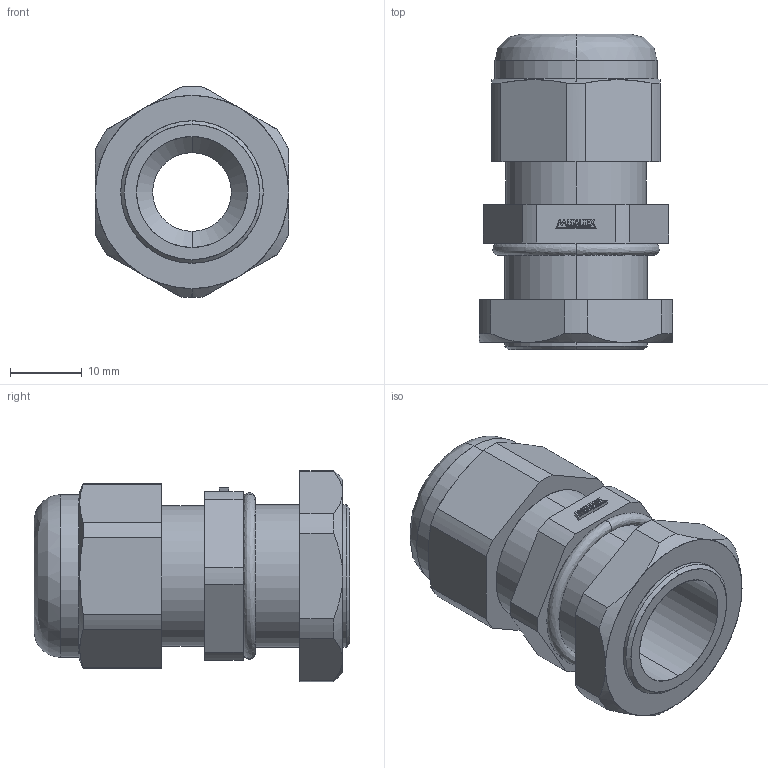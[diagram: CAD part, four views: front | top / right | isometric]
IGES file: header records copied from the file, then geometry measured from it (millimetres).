
Start section: SolidWorks IGES file using analytic representation for surfaces
Global section: file name: D:\X - Arquivos\PROEX\Empresas\P11 - METALTEX\01 - Produtos\IGES\Terceira remessa\Etapa 2\CH-M20L.IGS; native system: SolidWorks 2012; preprocessor: SolidWorks 2012; author: Usuario; date: 180207.124551; units: millimetre
Bounding box: 27 x 44.1 x 29.5 mm (x, y, z)
Surface area: 6858.3 mm2 (no closed solid volume)
Topology: 0 solids, 0 shells, 174 faces, 1318 edges, 1318 vertices
Faces by surface type: bspline 125, revolution 49
